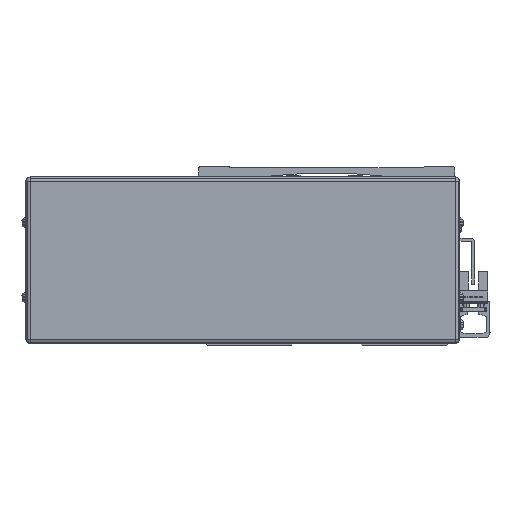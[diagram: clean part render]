
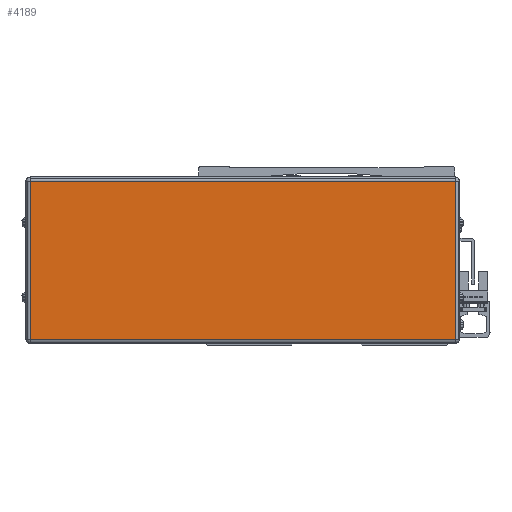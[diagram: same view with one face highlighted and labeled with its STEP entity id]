
A CAD part, front view. The second image highlights one B-rep face of the part: STEP entity #4189.
In plain terms, the highlighted planar face has unit normal (0, -1, 0).
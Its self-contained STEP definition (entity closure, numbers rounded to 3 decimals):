
#4189=ADVANCED_FACE('',(#9977),#9978,.F.);
#9977=FACE_OUTER_BOUND('',#18270,.T.);
#9978=PLANE('',#18271);
#18270=EDGE_LOOP('',(#31308,#31309,#31310,#31311));
#18271=AXIS2_PLACEMENT_3D('',#31312,#31313,#31314);
#31308=ORIENTED_EDGE('',*,*,#47286,.T.);
#31309=ORIENTED_EDGE('',*,*,#49024,.T.);
#31310=ORIENTED_EDGE('',*,*,#51114,.T.);
#31311=ORIENTED_EDGE('',*,*,#51115,.T.);
#31312=CARTESIAN_POINT('',(-340.5,-213.778,-8.));
#31313=DIRECTION('',(0.,1.0,0.));
#31314=DIRECTION('',(-1.0,0.,0.));
#47286=EDGE_CURVE('',#56193,#56191,#56194,.T.);
#49024=EDGE_CURVE('',#56191,#59231,#59233,.T.);
#51114=EDGE_CURVE('',#59231,#62702,#62703,.T.);
#51115=EDGE_CURVE('',#62702,#56193,#62704,.T.);
#56191=VERTEX_POINT('',#69260);
#56193=VERTEX_POINT('',#69262);
#56194=LINE('',#69263,#69264);
#59231=VERTEX_POINT('',#73548);
#59233=LINE('',#73550,#73551);
#62702=VERTEX_POINT('',#78625);
#62703=LINE('',#78626,#78627);
#62704=LINE('',#78628,#78629);
#69260=CARTESIAN_POINT('',(-442.7,-213.778,-46.));
#69262=CARTESIAN_POINT('',(-442.7,-213.778,30.));
#69263=CARTESIAN_POINT('',(-442.7,-213.778,-8.));
#69264=VECTOR('',#87812,10.0);
#73548=CARTESIAN_POINT('',(-238.3,-213.778,-46.));
#73550=CARTESIAN_POINT('',(-340.5,-213.778,-46.));
#73551=VECTOR('',#89998,10.0);
#78625=CARTESIAN_POINT('',(-238.3,-213.778,30.));
#78626=CARTESIAN_POINT('',(-238.3,-213.778,-8.));
#78627=VECTOR('',#92666,10.0);
#78628=CARTESIAN_POINT('',(-340.5,-213.778,30.));
#78629=VECTOR('',#92667,10.0);
#87812=DIRECTION('',(0.0,0.,-1.0));
#89998=DIRECTION('',(1.0,0.,0.));
#92666=DIRECTION('',(0.0,0.,1.0));
#92667=DIRECTION('',(-1.0,0.,0.));
